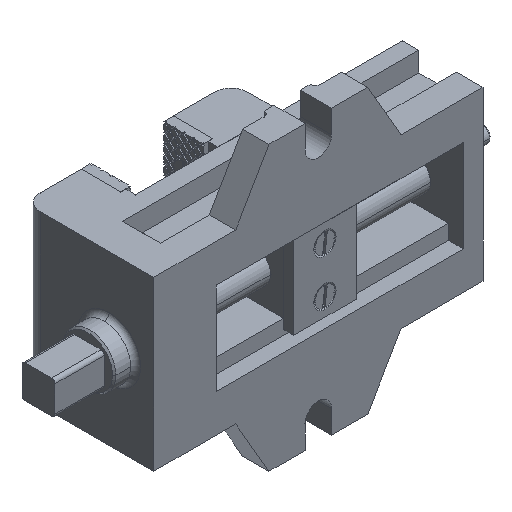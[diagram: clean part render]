
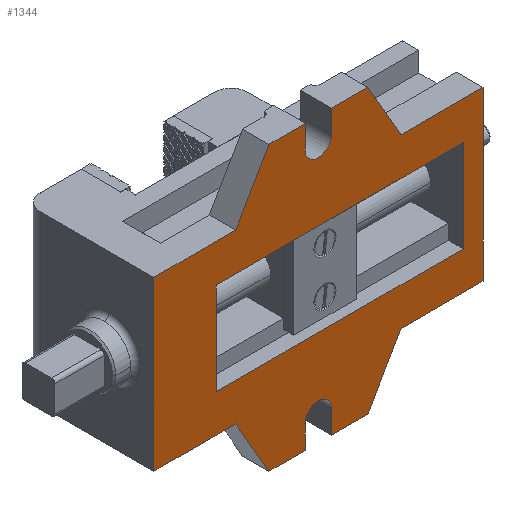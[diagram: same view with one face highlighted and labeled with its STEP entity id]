
A CAD part, isometric view. The second image highlights one B-rep face of the part: STEP entity #1344.
In plain terms, the highlighted planar face has unit normal (0, -1, 0).
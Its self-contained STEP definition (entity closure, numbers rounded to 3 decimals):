
#6=DIRECTION('',(1.,0.,0.));
#7=VECTOR('',#6,49.793);
#8=CARTESIAN_POINT('',(150.207,0.,-51.));
#9=LINE('',#8,#7);
#67=DIRECTION('',(1.,0.,0.));
#68=VECTOR('',#67,49.793);
#69=CARTESIAN_POINT('',(0.,0.,-51.));
#70=LINE('',#69,#68);
#243=DIRECTION('',(0.,0.,-1.));
#244=VECTOR('',#243,56.);
#245=CARTESIAN_POINT('',(38.,0.,28.));
#246=LINE('',#245,#244);
#247=DIRECTION('',(1.,0.,0.));
#248=VECTOR('',#247,150.);
#249=CARTESIAN_POINT('',(38.,0.,-28.));
#250=LINE('',#249,#248);
#251=DIRECTION('',(0.,0.,-1.));
#252=VECTOR('',#251,56.);
#253=CARTESIAN_POINT('',(188.,0.,28.));
#254=LINE('',#253,#252);
#255=DIRECTION('',(1.,0.,0.));
#256=VECTOR('',#255,150.);
#257=CARTESIAN_POINT('',(38.,0.,28.));
#258=LINE('',#257,#256);
#259=DIRECTION('',(-0.5,0.,-0.866));
#260=VECTOR('',#259,40.415);
#261=CARTESIAN_POINT('',(70.,0.,86.));
#262=LINE('',#261,#260);
#263=DIRECTION('',(-1.,0.,0.));
#264=VECTOR('',#263,22.);
#265=CARTESIAN_POINT('',(92.,0.,86.));
#266=LINE('',#265,#264);
#267=DIRECTION('',(0.,0.,1.));
#268=VECTOR('',#267,14.);
#269=CARTESIAN_POINT('',(92.,0.,72.));
#270=LINE('',#269,#268);
#271=CARTESIAN_POINT('',(100.,0.,72.));
#272=DIRECTION('',(0.,1.,0.));
#273=DIRECTION('',(1.,0.,0.));
#274=AXIS2_PLACEMENT_3D('',#271,#272,#273);
#276=DIRECTION('',(0.,0.,-1.));
#277=VECTOR('',#276,14.);
#278=CARTESIAN_POINT('',(108.,0.,86.));
#279=LINE('',#278,#277);
#280=DIRECTION('',(-1.,0.,0.));
#281=VECTOR('',#280,22.);
#282=CARTESIAN_POINT('',(130.,0.,86.));
#283=LINE('',#282,#281);
#284=DIRECTION('',(-0.5,0.,0.866));
#285=VECTOR('',#284,40.415);
#286=CARTESIAN_POINT('',(150.207,0.,51.));
#287=LINE('',#286,#285);
#288=DIRECTION('',(0.5,0.,0.866));
#289=VECTOR('',#288,40.415);
#290=CARTESIAN_POINT('',(130.,0.,-86.));
#291=LINE('',#290,#289);
#292=DIRECTION('',(1.,0.,0.));
#293=VECTOR('',#292,22.);
#294=CARTESIAN_POINT('',(108.,0.,-86.));
#295=LINE('',#294,#293);
#296=DIRECTION('',(0.,0.,-1.));
#297=VECTOR('',#296,14.);
#298=CARTESIAN_POINT('',(108.,0.,-72.));
#299=LINE('',#298,#297);
#300=CARTESIAN_POINT('',(100.,0.,-72.));
#301=DIRECTION('',(0.,1.,0.));
#302=DIRECTION('',(-1.,0.,0.));
#303=AXIS2_PLACEMENT_3D('',#300,#301,#302);
#305=DIRECTION('',(0.,0.,1.));
#306=VECTOR('',#305,14.);
#307=CARTESIAN_POINT('',(92.,0.,-86.));
#308=LINE('',#307,#306);
#309=DIRECTION('',(1.,0.,0.));
#310=VECTOR('',#309,22.);
#311=CARTESIAN_POINT('',(70.,0.,-86.));
#312=LINE('',#311,#310);
#313=DIRECTION('',(0.5,0.,-0.866));
#314=VECTOR('',#313,40.415);
#315=CARTESIAN_POINT('',(49.793,0.,-51.));
#316=LINE('',#315,#314);
#317=DIRECTION('',(0.,0.,1.));
#318=VECTOR('',#317,102.);
#319=CARTESIAN_POINT('',(0.,0.,-51.));
#320=LINE('',#319,#318);
#486=DIRECTION('',(0.,0.,1.));
#487=VECTOR('',#486,102.);
#488=CARTESIAN_POINT('',(200.,0.,-51.));
#489=LINE('',#488,#487);
#512=DIRECTION('',(1.,0.,0.));
#513=VECTOR('',#512,49.793);
#514=CARTESIAN_POINT('',(0.,0.,51.));
#515=LINE('',#514,#513);
#573=DIRECTION('',(1.,0.,0.));
#574=VECTOR('',#573,49.793);
#575=CARTESIAN_POINT('',(150.207,0.,51.));
#576=LINE('',#575,#574);
#814=CARTESIAN_POINT('',(0.,0.,-51.));
#815=VERTEX_POINT('',#814);
#830=CARTESIAN_POINT('',(0.,0.,51.));
#831=VERTEX_POINT('',#830);
#832=CARTESIAN_POINT('',(200.,0.,-51.));
#833=CARTESIAN_POINT('',(200.,0.,51.));
#834=VERTEX_POINT('',#832);
#835=VERTEX_POINT('',#833);
#852=CARTESIAN_POINT('',(38.,0.,28.));
#853=CARTESIAN_POINT('',(38.,0.,-28.));
#854=VERTEX_POINT('',#852);
#855=VERTEX_POINT('',#853);
#856=CARTESIAN_POINT('',(188.,0.,28.));
#857=CARTESIAN_POINT('',(188.,0.,-28.));
#858=VERTEX_POINT('',#856);
#859=VERTEX_POINT('',#857);
#884=CARTESIAN_POINT('',(108.,0.,72.));
#885=CARTESIAN_POINT('',(92.,0.,72.));
#886=VERTEX_POINT('',#884);
#887=VERTEX_POINT('',#885);
#888=CARTESIAN_POINT('',(92.,0.,86.));
#889=VERTEX_POINT('',#888);
#890=CARTESIAN_POINT('',(70.,0.,86.));
#891=VERTEX_POINT('',#890);
#892=CARTESIAN_POINT('',(130.,0.,86.));
#893=CARTESIAN_POINT('',(108.,0.,86.));
#894=VERTEX_POINT('',#892);
#895=VERTEX_POINT('',#893);
#896=CARTESIAN_POINT('',(108.,0.,-72.));
#897=CARTESIAN_POINT('',(108.,0.,-86.));
#898=VERTEX_POINT('',#896);
#899=VERTEX_POINT('',#897);
#900=CARTESIAN_POINT('',(130.,0.,-86.));
#901=VERTEX_POINT('',#900);
#902=CARTESIAN_POINT('',(70.,0.,-86.));
#903=CARTESIAN_POINT('',(92.,0.,-86.));
#904=VERTEX_POINT('',#902);
#905=VERTEX_POINT('',#903);
#906=CARTESIAN_POINT('',(92.,0.,-72.));
#907=VERTEX_POINT('',#906);
#916=CARTESIAN_POINT('',(150.207,0.,-51.));
#918=VERTEX_POINT('',#916);
#920=CARTESIAN_POINT('',(49.793,0.,-51.));
#922=VERTEX_POINT('',#920);
#924=CARTESIAN_POINT('',(49.793,0.,51.));
#926=VERTEX_POINT('',#924);
#928=CARTESIAN_POINT('',(150.207,0.,51.));
#930=VERTEX_POINT('',#928);
#1292=CARTESIAN_POINT('',(0.,0.,-51.));
#1293=DIRECTION('',(0.,-1.,0.));
#1294=DIRECTION('',(1.,0.,0.));
#1295=AXIS2_PLACEMENT_3D('',#1292,#1293,#1294);
#1296=PLANE('',#1295);
#1298=ORIENTED_EDGE('',*,*,#1297,.T.);
#1300=ORIENTED_EDGE('',*,*,#1299,.F.);
#1302=ORIENTED_EDGE('',*,*,#1301,.F.);
#1304=ORIENTED_EDGE('',*,*,#1303,.F.);
#1306=ORIENTED_EDGE('',*,*,#1305,.F.);
#1308=ORIENTED_EDGE('',*,*,#1307,.F.);
#1310=ORIENTED_EDGE('',*,*,#1309,.F.);
#1312=ORIENTED_EDGE('',*,*,#1311,.F.);
#1314=ORIENTED_EDGE('',*,*,#1313,.T.);
#1316=ORIENTED_EDGE('',*,*,#1315,.F.);
#1317=ORIENTED_EDGE('',*,*,#1055,.F.);
#1318=ORIENTED_EDGE('',*,*,#1108,.F.);
#1320=ORIENTED_EDGE('',*,*,#1319,.F.);
#1322=ORIENTED_EDGE('',*,*,#1321,.F.);
#1324=ORIENTED_EDGE('',*,*,#1323,.F.);
#1326=ORIENTED_EDGE('',*,*,#1325,.F.);
#1327=ORIENTED_EDGE('',*,*,#1272,.F.);
#1328=ORIENTED_EDGE('',*,*,#1285,.F.);
#1329=ORIENTED_EDGE('',*,*,#1093,.F.);
#1331=ORIENTED_EDGE('',*,*,#1330,.T.);
#1332=EDGE_LOOP('',(#1298,#1300,#1302,#1304,#1306,#1308,#1310,#1312,#1314,#1316,
#1317,#1318,#1320,#1322,#1324,#1326,#1327,#1328,#1329,#1331));
#1333=FACE_OUTER_BOUND('',#1332,.F.);
#1335=ORIENTED_EDGE('',*,*,#1334,.T.);
#1337=ORIENTED_EDGE('',*,*,#1336,.T.);
#1339=ORIENTED_EDGE('',*,*,#1338,.F.);
#1341=ORIENTED_EDGE('',*,*,#1340,.F.);
#1342=EDGE_LOOP('',(#1335,#1337,#1339,#1341));
#1343=FACE_BOUND('',#1342,.F.);
#1344=ADVANCED_FACE('',(#1333,#1343),#1296,.T.);
#275=CIRCLE('',#274,8.);
#304=CIRCLE('',#303,8.);
#1055=EDGE_CURVE('',#918,#834,#9,.T.);
#1093=EDGE_CURVE('',#815,#922,#70,.T.);
#1108=EDGE_CURVE('',#901,#918,#291,.T.);
#1272=EDGE_CURVE('',#904,#905,#312,.T.);
#1285=EDGE_CURVE('',#922,#904,#316,.T.);
#1297=EDGE_CURVE('',#831,#926,#515,.T.);
#1299=EDGE_CURVE('',#891,#926,#262,.T.);
#1301=EDGE_CURVE('',#889,#891,#266,.T.);
#1303=EDGE_CURVE('',#887,#889,#270,.T.);
#1305=EDGE_CURVE('',#886,#887,#275,.T.);
#1307=EDGE_CURVE('',#895,#886,#279,.T.);
#1309=EDGE_CURVE('',#894,#895,#283,.T.);
#1311=EDGE_CURVE('',#930,#894,#287,.T.);
#1313=EDGE_CURVE('',#930,#835,#576,.T.);
#1315=EDGE_CURVE('',#834,#835,#489,.T.);
#1319=EDGE_CURVE('',#899,#901,#295,.T.);
#1321=EDGE_CURVE('',#898,#899,#299,.T.);
#1323=EDGE_CURVE('',#907,#898,#304,.T.);
#1325=EDGE_CURVE('',#905,#907,#308,.T.);
#1330=EDGE_CURVE('',#815,#831,#320,.T.);
#1334=EDGE_CURVE('',#854,#855,#246,.T.);
#1336=EDGE_CURVE('',#855,#859,#250,.T.);
#1338=EDGE_CURVE('',#858,#859,#254,.T.);
#1340=EDGE_CURVE('',#854,#858,#258,.T.);
